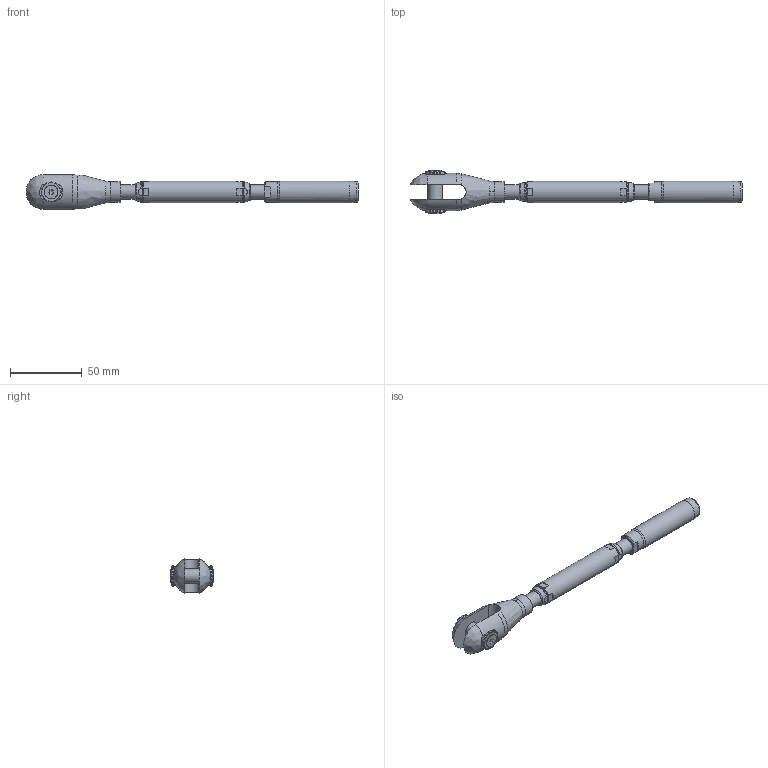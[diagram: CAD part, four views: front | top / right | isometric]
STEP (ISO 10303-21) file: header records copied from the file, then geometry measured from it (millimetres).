
FILE_DESCRIPTION(/* description */ (''),/* implementation_level */ '2;1');
FILE_NAME(/* name */ 'TBC 06_1,4462',/* time_stamp */ '2023-05-23T18:16:57+02:00',/* author */ (''),/* organization */ (''),/* preprocessor_version */ 'ST-DEVELOPER v16.5',/* originating_system */ 'Rhino 7.22',/* authorisation */ '');
FILE_SCHEMA (('CONFIG_CONTROL_DESIGN'));
Length unit declared in the file: millimetre
Products named in the file (1): Document
Bounding box: 231 x 29.96 x 24 mm (x, y, z)
Volume: 41764.6 mm3; surface area: 21133.4 mm2
Topology: 10 solids, 10 shells, 141 faces, 384 edges, 265 vertices
Faces by surface type: plane 65, bspline 41, cylinder 35
Full cylindrical faces by diameter (mm): 4.134 x2, 5 x2, 5.5 x2, 8.376 x4, 9.43 x2, 10 x3, 11 x2, 12 x1, 14 x2, 14.5 x2, 15 x1, 15.3 x1
Entity records: 5862 total; most frequent: CARTESIAN_POINT 3430, ORIENTED_EDGE 760, EDGE_CURVE 380, VERTEX_POINT 265, EDGE_LOOP 161, B_SPLINE_CURVE_WITH_KNOTS 154, ADVANCED_FACE 141, FACE_OUTER_BOUND 141
